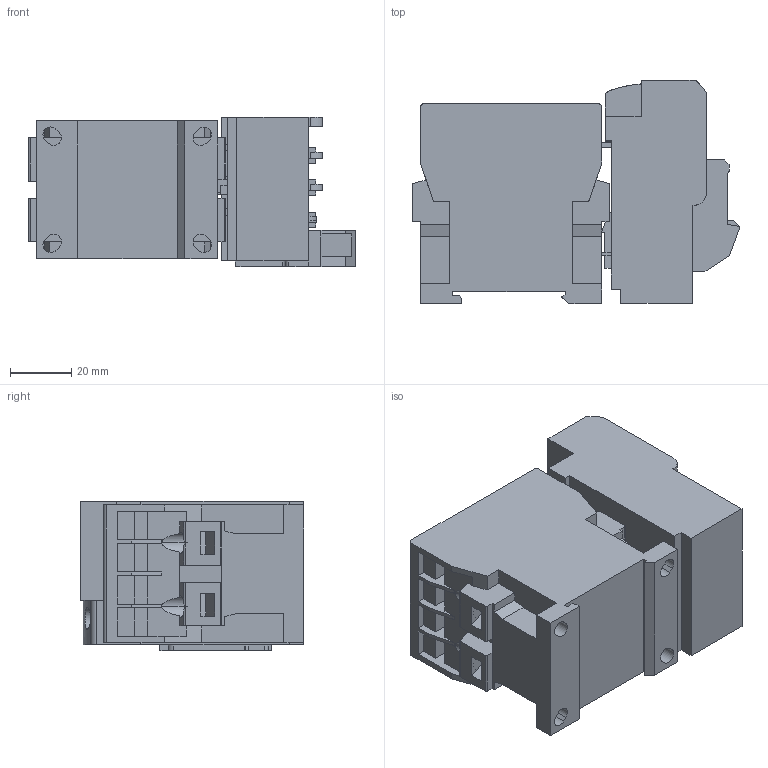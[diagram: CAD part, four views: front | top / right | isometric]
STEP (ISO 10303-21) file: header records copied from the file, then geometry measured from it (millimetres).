
FILE_DESCRIPTION (( 'STEP AP203' ), '1' );
FILE_NAME ('K3-14N_U12_E_K3.STEP', '2013-05-29T11:49:30', ( 'edv' ), ( '' ), 'SwSTEP 2.0', 'SolidWorks 2013', '' );
FILE_SCHEMA (( 'CONFIG_CONTROL_DESIGN' ));
Length unit declared in the file: millimetre
Products named in the file (3): K3-14N_U12_E_K3; K3-10N; U12_E_K3
Assembly tree (2 placements, depth 2):
  K3-14N_U12_E_K3
    K3-10N
    U12_E_K3
Bounding box: 106.74 x 72.97 x 48.95 mm (x, y, z)
Volume: 235947.1 mm3; surface area: 45662.9 mm2
Topology: 2 solids, 2 shells, 457 faces, 1268 edges, 838 vertices
Faces by surface type: plane 375, cylinder 82
Entity records: 14909 total; most frequent: CARTESIAN_POINT 2813, ORIENTED_EDGE 2532, DIRECTION 2322, EDGE_CURVE 1266, VECTOR 1052, LINE 1052, VERTEX_POINT 836, AXIS2_PLACEMENT_3D 635
